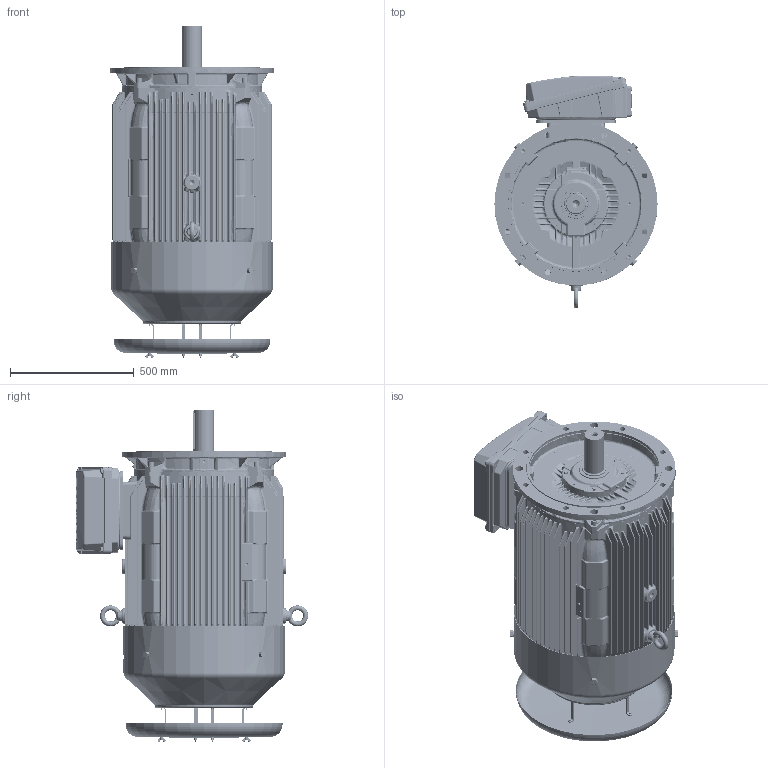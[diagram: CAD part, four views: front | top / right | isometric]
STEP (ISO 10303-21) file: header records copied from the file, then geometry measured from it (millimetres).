
FILE_DESCRIPTION (( 'STEP AP203' ), '1' );
FILE_NAME ('0231500893_RevB.STEP', '2019-05-14T12:22:58', ( '' ), ( '' ), 'SwSTEP 2.0', 'SolidWorks 2015', '' );
FILE_SCHEMA (( 'CONFIG_CONTROL_DESIGN' ));
Length unit declared in the file: inch
Products named in the file (1): 0231500893_RevB
Bounding box: 660 x 939.29 x 1343.1 mm (x, y, z)
Volume: 59944944.7 mm3; surface area: 12121026.5 mm2
Topology: 80 solids, 80 shells, 15917 faces, 38713 edges, 22543 vertices
Faces by surface type: bspline 5179, cylinder 4870, plane 1936, torus 1860, cone 1457, sphere 615
Entity records: 655268 total; most frequent: CARTESIAN_POINT 317494, ORIENTED_EDGE 76042, DIRECTION 65509, EDGE_CURVE 38021, AXIS2_PLACEMENT_3D 28195, VERTEX_POINT 22441, CIRCLE 17456, EDGE_LOOP 17172
